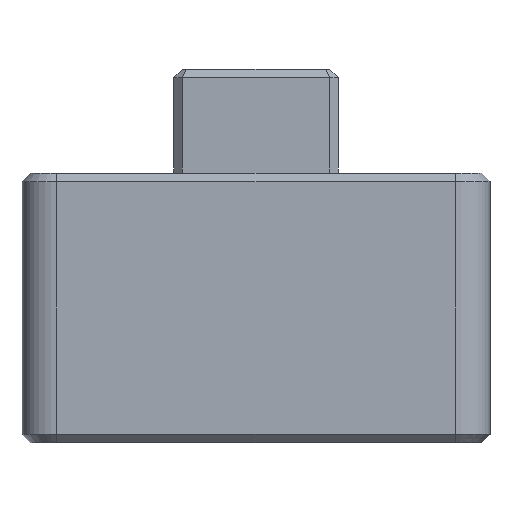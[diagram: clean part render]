
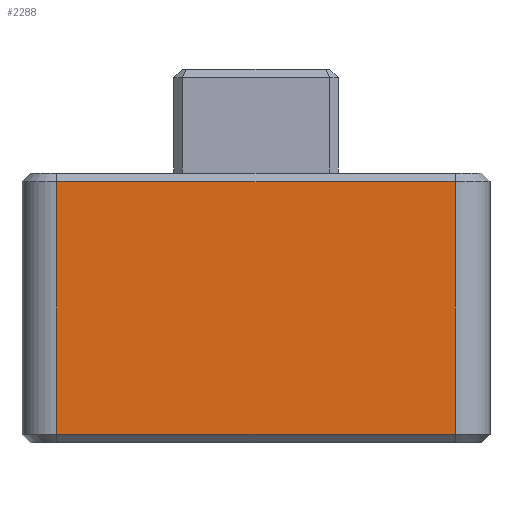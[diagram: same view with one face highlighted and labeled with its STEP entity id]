
A CAD part, front view. The second image highlights one B-rep face of the part: STEP entity #2288.
In plain terms, the highlighted planar face has unit normal (0, -1, 0).
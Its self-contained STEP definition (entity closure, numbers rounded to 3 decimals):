
#118=PLANE('',#2523);
#275=FACE_OUTER_BOUND('',#427,.T.);
#427=EDGE_LOOP('',(#2120,#2121,#2122,#2123));
#534=LINE('',#3538,#766);
#622=LINE('',#3750,#854);
#645=LINE('',#3812,#877);
#649=LINE('',#3821,#881);
#766=VECTOR('',#2876,10.);
#854=VECTOR('',#3066,10.);
#877=VECTOR('',#3153,10.);
#881=VECTOR('',#3167,10.);
#1059=VERTEX_POINT('',#3437);
#1080=VERTEX_POINT('',#3530);
#1153=VERTEX_POINT('',#3746);
#1160=VERTEX_POINT('',#3811);
#1331=EDGE_CURVE('',#1059,#1080,#534,.T.);
#1436=EDGE_CURVE('',#1059,#1153,#622,.T.);
#1468=EDGE_CURVE('',#1160,#1080,#645,.T.);
#1473=EDGE_CURVE('',#1153,#1160,#649,.T.);
#2120=ORIENTED_EDGE('',*,*,#1436,.T.);
#2121=ORIENTED_EDGE('',*,*,#1473,.T.);
#2122=ORIENTED_EDGE('',*,*,#1468,.T.);
#2123=ORIENTED_EDGE('',*,*,#1331,.F.);
#2288=ADVANCED_FACE('',(#275),#118,.F.);
#2523=AXIS2_PLACEMENT_3D('',#3845,#3198,#3199);
#2876=DIRECTION('',(0.,0.,-1.));
#3066=DIRECTION('',(-1.,0.,0.));
#3153=DIRECTION('',(1.,0.,0.));
#3167=DIRECTION('',(0.,0.,-1.));
#3198=DIRECTION('center_axis',(0.,1.,0.));
#3199=DIRECTION('ref_axis',(-1.,0.,0.));
#3437=CARTESIAN_POINT('',(11.5,-22.5,28.075));
#3530=CARTESIAN_POINT('',(11.5,-22.5,13.5));
#3538=CARTESIAN_POINT('',(11.5,-22.5,13.));
#3746=CARTESIAN_POINT('',(-11.5,-22.5,28.075));
#3750=CARTESIAN_POINT('',(6.75,-22.5,28.075));
#3811=CARTESIAN_POINT('',(-11.5,-22.5,13.5));
#3812=CARTESIAN_POINT('',(6.75,-22.5,13.5));
#3821=CARTESIAN_POINT('',(-11.5,-22.5,13.));
#3845=CARTESIAN_POINT('Origin',(13.5,-22.5,13.));
